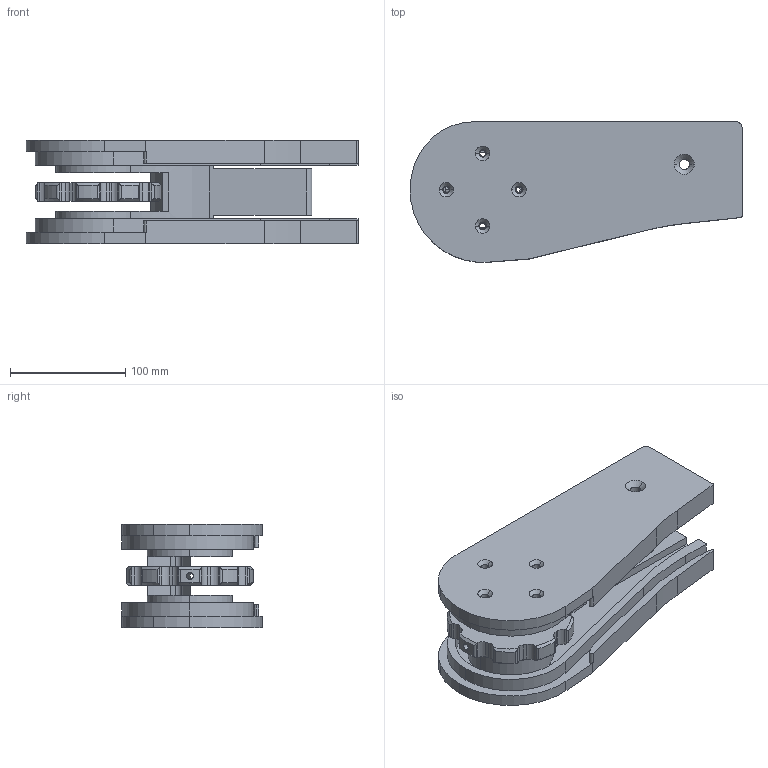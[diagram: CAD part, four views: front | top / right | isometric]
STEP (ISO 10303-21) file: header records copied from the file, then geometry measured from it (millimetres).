
FILE_DESCRIPTION (( 'STEP AP203' ), '1' );
FILE_NAME ('R1R-SC.STEP', '2008-11-24T14:42:02', ( 'faber' ), ( '' ), 'SwSTEP 2.0', 'SolidWorks 2008', '' );
FILE_SCHEMA (( 'CONFIG_CONTROL_DESIGN' ));
Length unit declared in the file: millimetre
Products named in the file (1): R1R-SC
Bounding box: 288 x 121.81 x 90 mm (x, y, z)
Surface area: 204401.5 mm2 (no closed solid volume)
Topology: 0 solids, 4 shells, 221 faces, 719 edges, 492 vertices
Faces by surface type: cylinder 113, plane 70, cone 38
Entity records: 8525 total; most frequent: CARTESIAN_POINT 2016, DIRECTION 1361, ORIENTED_EDGE 1314, EDGE_CURVE 719, AXIS2_PLACEMENT_3D 495, VERTEX_POINT 492, VECTOR 371, LINE 371
